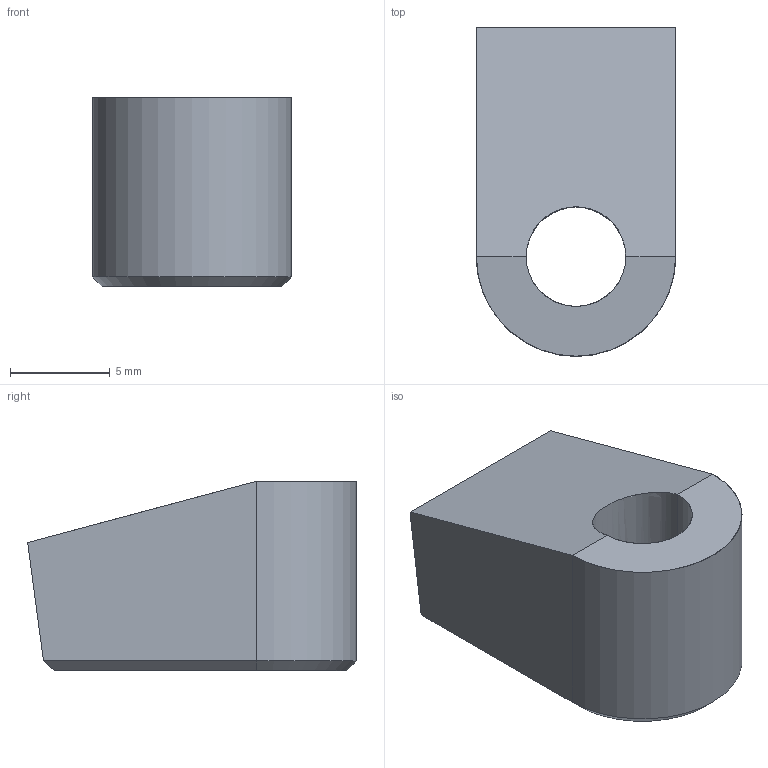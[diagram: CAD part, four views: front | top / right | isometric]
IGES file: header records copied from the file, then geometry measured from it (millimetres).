
Start section: SolidWorks IGES FILE using analytic representation for surfaces
Global section: file name: C:\WIX2\Positioning\3550\3550w008.igs; native system: SolidWorks 2003 by SolidWorks Corporation; preprocessor: Version 5.3; author: Joan; date: 030710.141442; units: millimetre
Bounding box: 10 x 16.51 x 9.52 mm (x, y, z)
Surface area: 789.6 mm2 (no closed solid volume)
Topology: 0 solids, 0 shells, 13 faces, 159 edges, 159 vertices
Faces by surface type: bspline 9, revolution 4
